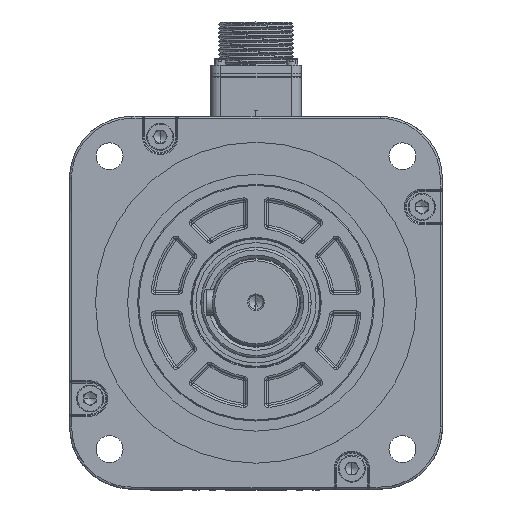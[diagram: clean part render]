
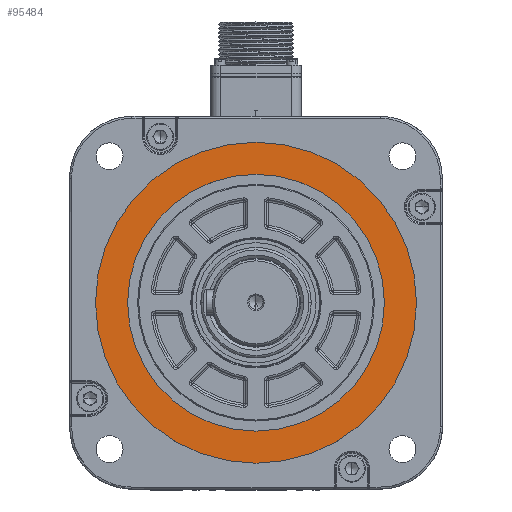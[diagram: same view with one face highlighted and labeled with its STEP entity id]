
A CAD part, top view. The second image highlights one B-rep face of the part: STEP entity #95484.
In plain terms, the highlighted planar face has unit normal (0, 0, 1) as drawn and (0, 0, -1) by its records, which use the part's own axes.
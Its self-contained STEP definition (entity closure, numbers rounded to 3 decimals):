
#2343 = AXIS2_PLACEMENT_3D ( 'NONE', #157844, #56371, #18560 ) ;
#3771 = DIRECTION ( 'NONE',  ( -1., 0., 0. ) ) ;
#9821 = CIRCLE ( 'NONE', #11543, 62. ) ;
#11543 = AXIS2_PLACEMENT_3D ( 'NONE', #16273, #91219, #3771 ) ;
#13491 = CARTESIAN_POINT ( 'NONE',  ( -77.5, 0., 1.5 ) ) ;
#16273 = CARTESIAN_POINT ( 'NONE',  ( 0., 0., 1.5 ) ) ;
#18560 = DIRECTION ( 'NONE',  ( -1., 0., 0. ) ) ;
#18723 = ORIENTED_EDGE ( 'NONE', *, *, #95449, .T. ) ;
#22271 = PLANE ( 'NONE',  #83677 ) ;
#26806 = CARTESIAN_POINT ( 'NONE',  ( 0., 0., 1.5 ) ) ;
#27470 = EDGE_CURVE ( 'NONE', #103897, #40346, #103620, .T. ) ;
#29298 = EDGE_LOOP ( 'NONE', ( #37295, #102743 ) ) ;
#37295 = ORIENTED_EDGE ( 'NONE', *, *, #147941, .T. ) ;
#40346 = VERTEX_POINT ( 'NONE', #115934 ) ;
#41170 = EDGE_LOOP ( 'NONE', ( #118916, #18723 ) ) ;
#46356 = DIRECTION ( 'NONE',  ( -1., 0., 0. ) ) ;
#56371 = DIRECTION ( 'NONE',  ( 0., 0., 1. ) ) ;
#59459 = DIRECTION ( 'NONE',  ( 0., 0., -1. ) ) ;
#70952 = DIRECTION ( 'NONE',  ( -1., 0., 0. ) ) ;
#74102 = CIRCLE ( 'NONE', #2343, 62. ) ;
#83677 = AXIS2_PLACEMENT_3D ( 'NONE', #84551, #158223, #46356 ) ;
#84551 = CARTESIAN_POINT ( 'NONE',  ( 0., 0., 1.5 ) ) ;
#89588 = FACE_OUTER_BOUND ( 'NONE', #41170, .T. ) ;
#91219 = DIRECTION ( 'NONE',  ( 0., 0., 1. ) ) ;
#95449 = EDGE_CURVE ( 'NONE', #40346, #103897, #130506, .T. ) ;
#95484 = ADVANCED_FACE ( 'NONE', ( #159869, #89588 ), #22271, .T. ) ;
#96597 = CARTESIAN_POINT ( 'NONE',  ( 62., 0., 1.5 ) ) ;
#96785 = EDGE_CURVE ( 'NONE', #128232, #150182, #9821, .T. ) ;
#97113 = CARTESIAN_POINT ( 'NONE',  ( 0., 0., 1.5 ) ) ;
#102743 = ORIENTED_EDGE ( 'NONE', *, *, #96785, .T. ) ;
#103620 = CIRCLE ( 'NONE', #132273, 77.5 ) ;
#103897 = VERTEX_POINT ( 'NONE', #13491 ) ;
#109716 = AXIS2_PLACEMENT_3D ( 'NONE', #97113, #59459, #70952 ) ;
#114157 = DIRECTION ( 'NONE',  ( -1., 0., 0. ) ) ;
#115934 = CARTESIAN_POINT ( 'NONE',  ( 77.5, 0., 1.5 ) ) ;
#118916 = ORIENTED_EDGE ( 'NONE', *, *, #27470, .T. ) ;
#125089 = DIRECTION ( 'NONE',  ( 0., 0., -1. ) ) ;
#128232 = VERTEX_POINT ( 'NONE', #96597 ) ;
#130506 = CIRCLE ( 'NONE', #109716, 77.5 ) ;
#132273 = AXIS2_PLACEMENT_3D ( 'NONE', #26806, #125089, #114157 ) ;
#147941 = EDGE_CURVE ( 'NONE', #150182, #128232, #74102, .T. ) ;
#149187 = CARTESIAN_POINT ( 'NONE',  ( -62., 0., 1.5 ) ) ;
#150182 = VERTEX_POINT ( 'NONE', #149187 ) ;
#157844 = CARTESIAN_POINT ( 'NONE',  ( 0., 0., 1.5 ) ) ;
#158223 = DIRECTION ( 'NONE',  ( 0., 0., -1. ) ) ;
#159869 = FACE_BOUND ( 'NONE', #29298, .T. ) ;
